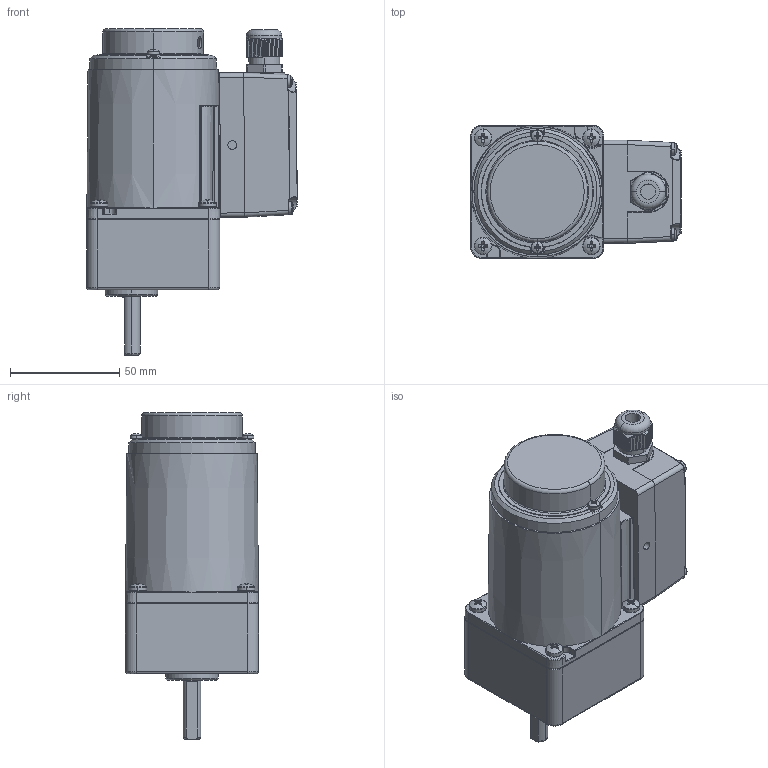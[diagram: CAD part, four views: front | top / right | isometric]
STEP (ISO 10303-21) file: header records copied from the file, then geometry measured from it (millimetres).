
FILE_DESCRIPTION (( 'STEP AP203' ), '1' );
FILE_NAME ('2IK6RGN-CT(2GN3K-18K).STEP', '2023-08-07T07:44:05', ( 'Windows User' ), ( 'P R C' ), 'SwSTEP 2.0', 'SolidWorks 2019', '' );
FILE_SCHEMA (( 'CONFIG_CONTROL_DESIGN' ));
Length unit declared in the file: millimetre
Products named in the file (13): ^__2IK6RGN-CT(2GN3K-18K)(2)_2IK6RGN-CT(2GN3K-18K); 2IK6RGN-CT(2GN3K-18K); 葩璃 (3) ^___2IK6RGN-CT(2GN3K-18K)(2)_2IK6RGN-CT(2GN3K-18K); 葩璃 (3) ^__2IK6RGN-CT(2GN3K-18K)(2)_2IK6RGN-CT(2GN3K-18K); 2GN3K-18K^2IK6RGN-CT(2GN3K-18K)(2)_2IK6RGN-CT(2GN3K-18K); ^___2IK6RGN-CT(2GN3K-18K)(2)_2IK6RGN-CT(2GN3K-18K); ^_2IK6RGN-CT(2GN3K-18K)(2)_2IK6RGN-CT(2GN3K-18K); 2IK6RGN-CT(2GN3K-18K)(2)^2IK6RGN-CT(2GN3K-18K); 葩璃 (2) ^__2IK6RGN-CT(2GN3K-18K)(2)_2IK6RGN-CT(2GN3K-18K); 葩璃 (2) ^___2IK6RGN-CT(2GN3K-18K)(2)_2IK6RGN-CT(2GN3K-18K); ^2IK6RGN-CT(2GN3K-18K)(2)_2IK6RGN-CT(2GN3K-18K)
Assembly tree (19 placements, depth 6):
  2IK6RGN-CT(2GN3K-18K)
    2IK6RGN-CT(2GN3K-18K)(2)^2IK6RGN-CT(2GN3K-18K)
      ^2IK6RGN-CT(2GN3K-18K)(2)_2IK6RGN-CT(2GN3K-18K)
        ^_2IK6RGN-CT(2GN3K-18K)(2)_2IK6RGN-CT(2GN3K-18K)
          ^__2IK6RGN-CT(2GN3K-18K)(2)_2IK6RGN-CT(2GN3K-18K)
            ^___2IK6RGN-CT(2GN3K-18K)(2)_2IK6RGN-CT(2GN3K-18K)
            葩璃 (2) ^___2IK6RGN-CT(2GN3K-18K)(2)_2IK6RGN-CT(2GN3K-18K)
            葩璃 (3) ^___2IK6RGN-CT(2GN3K-18K)(2)_2IK6RGN-CT(2GN3K-18K)  x4
          ^__2IK6RGN-CT(2GN3K-18K)(2)_2IK6RGN-CT(2GN3K-18K)
          葩璃 (2) ^__2IK6RGN-CT(2GN3K-18K)(2)_2IK6RGN-CT(2GN3K-18K)
          葩璃 (3) ^__2IK6RGN-CT(2GN3K-18K)(2)_2IK6RGN-CT(2GN3K-18K)  x2
        ^_2IK6RGN-CT(2GN3K-18K)(2)_2IK6RGN-CT(2GN3K-18K)  x4
      2GN3K-18K^2IK6RGN-CT(2GN3K-18K)(2)_2IK6RGN-CT(2GN3K-18K)
Bounding box: 96.24 x 60.8 x 149.25 mm (x, y, z)
Volume: 395785 mm3; surface area: 79274.8 mm2
Topology: 15 solids, 16 shells, 2089 faces, 5395 edges, 3331 vertices
Faces by surface type: cone 871, cylinder 670, plane 357, torus 108, bspline 45, sphere 38
Entity records: 40977 total; most frequent: CARTESIAN_POINT 13209, DIRECTION 5714, ORIENTED_EDGE 5502, EDGE_CURVE 2751, AXIS2_PLACEMENT_3D 2373, VERTEX_POINT 1720, CIRCLE 1305, EDGE_LOOP 1145
